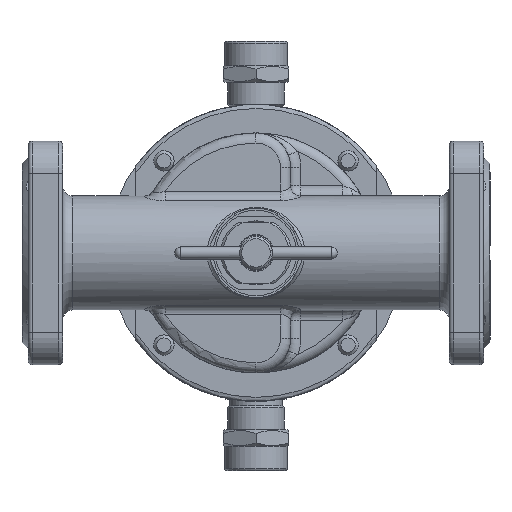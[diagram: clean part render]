
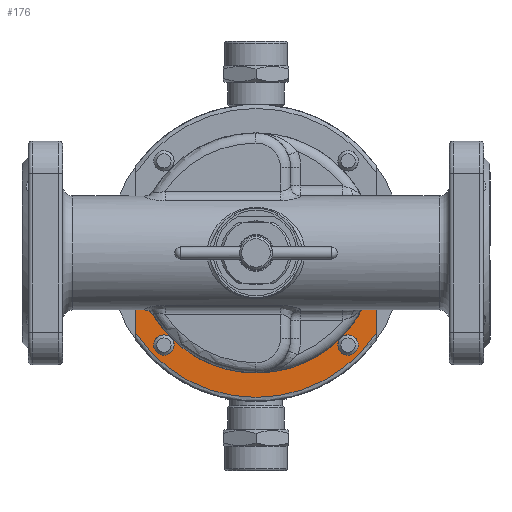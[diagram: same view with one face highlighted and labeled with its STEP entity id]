
A CAD part, front view. The second image highlights one B-rep face of the part: STEP entity #176.
In plain terms, the highlighted planar face has unit normal (0, -1, 0).
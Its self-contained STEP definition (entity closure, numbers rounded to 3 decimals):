
#176=ADVANCED_FACE('',(#4627),#4629,.F.);
#4627=FACE_OUTER_BOUND('',#4628,.T.);
#4628=EDGE_LOOP('',(#21762,#21763,#21764,#21765,#21766,#21767,#21768,#21769,#21770,
#21771));
#4629=PLANE('',#4630);
#4630=AXIS2_PLACEMENT_3D('',#4631,#4632,#4633);
#4631=CARTESIAN_POINT('',(0.,39.5,0.));
#4632=DIRECTION('',(0.,1.,0.));
#4633=DIRECTION('',(-1.,0.,0.));
#21762=ORIENTED_EDGE('',*,*,#33159,.F.);
#21763=ORIENTED_EDGE('',*,*,#33160,.F.);
#21764=ORIENTED_EDGE('',*,*,#33082,.F.);
#21765=ORIENTED_EDGE('',*,*,#33100,.F.);
#21766=ORIENTED_EDGE('',*,*,#33161,.F.);
#21767=ORIENTED_EDGE('',*,*,#33093,.F.);
#21768=ORIENTED_EDGE('',*,*,#33084,.F.);
#21769=ORIENTED_EDGE('',*,*,#33162,.F.);
#21770=ORIENTED_EDGE('',*,*,#33163,.F.);
#21771=ORIENTED_EDGE('',*,*,#33083,.F.);
#33082=EDGE_CURVE('',#37993,#38123,#38124,.T.);
#33083=EDGE_CURVE('',#38123,#38125,#38126,.T.);
#33084=EDGE_CURVE('',#38125,#37987,#38127,.T.);
#33093=EDGE_CURVE('',#37987,#38142,#38143,.T.);
#33100=EDGE_CURVE('',#38152,#37993,#38154,.T.);
#33159=EDGE_CURVE('',#38247,#38123,#38248,.T.);
#33160=EDGE_CURVE('',#38123,#38247,#38249,.T.);
#33161=EDGE_CURVE('',#38142,#38152,#38250,.T.);
#33162=EDGE_CURVE('',#38251,#38125,#38252,.T.);
#33163=EDGE_CURVE('',#38125,#38251,#38253,.T.);
#37987=VERTEX_POINT('',#46244);
#37993=VERTEX_POINT('',#46258);
#38123=VERTEX_POINT('',#46631);
#38124=CIRCLE('',#46632,59.);
#38125=VERTEX_POINT('',#46636);
#38126=CIRCLE('',#46637,59.);
#38127=CIRCLE('',#46641,59.);
#38142=VERTEX_POINT('',#46776);
#38143=LINE('',#46777,#46778);
#38152=VERTEX_POINT('',#46903);
#38154=LINE('',#46959,#46960);
#38247=VERTEX_POINT('',#47385);
#38248=CIRCLE('',#47386,5.);
#38249=CIRCLE('',#47390,5.);
#38250=CIRCLE('',#47394,71.);
#38251=VERTEX_POINT('',#47398);
#38252=CIRCLE('',#47399,5.);
#38253=CIRCLE('',#47403,5.);
#46244=CARTESIAN_POINT('',(59.,39.5,0.));
#46258=CARTESIAN_POINT('',(-59.,39.5,0.));
#46631=CARTESIAN_POINT('',(-41.719,39.5,-41.719));
#46632=AXIS2_PLACEMENT_3D('',#46633,#46634,#46635);
#46633=CARTESIAN_POINT('',(0.,39.5,0.));
#46634=DIRECTION('',(0.,-1.,0.));
#46635=DIRECTION('',(-1.,0.,0.));
#46636=CARTESIAN_POINT('',(41.719,39.5,-41.719));
#46637=AXIS2_PLACEMENT_3D('',#46638,#46639,#46640);
#46638=CARTESIAN_POINT('',(0.,39.5,0.));
#46639=DIRECTION('',(0.,-1.,0.));
#46640=DIRECTION('',(-0.707,0.,-0.707));
#46641=AXIS2_PLACEMENT_3D('',#46642,#46643,#46644);
#46642=CARTESIAN_POINT('',(0.,39.5,0.));
#46643=DIRECTION('',(0.,-1.,0.));
#46644=DIRECTION('',(0.707,0.,-0.707));
#46776=CARTESIAN_POINT('',(59.,39.5,-39.497));
#46777=CARTESIAN_POINT('',(59.,39.5,0.));
#46778=VECTOR('',#46779,1.);
#46779=DIRECTION('',(0.,0.,-1.));
#46903=CARTESIAN_POINT('',(-59.,39.5,-39.497));
#46959=CARTESIAN_POINT('',(-59.,39.5,-39.497));
#46960=VECTOR('',#46961,1.);
#46961=DIRECTION('',(0.,0.,1.));
#47385=CARTESIAN_POINT('',(-45.255,39.5,-50.255));
#47386=AXIS2_PLACEMENT_3D('',#47387,#47388,#47389);
#47387=CARTESIAN_POINT('',(-45.255,39.5,-45.255));
#47388=DIRECTION('',(0.,-1.,0.));
#47389=DIRECTION('',(0.,0.,-1.));
#47390=AXIS2_PLACEMENT_3D('',#47391,#47392,#47393);
#47391=CARTESIAN_POINT('',(-45.255,39.5,-45.255));
#47392=DIRECTION('',(0.,-1.,0.));
#47393=DIRECTION('',(0.707,0.,0.707));
#47394=AXIS2_PLACEMENT_3D('',#47395,#47396,#47397);
#47395=CARTESIAN_POINT('',(0.,39.5,0.));
#47396=DIRECTION('',(0.,1.,0.));
#47397=DIRECTION('',(0.831,0.,-0.556));
#47398=CARTESIAN_POINT('',(50.255,39.5,-45.255));
#47399=AXIS2_PLACEMENT_3D('',#47400,#47401,#47402);
#47400=CARTESIAN_POINT('',(45.255,39.5,-45.255));
#47401=DIRECTION('',(0.,-1.,0.));
#47402=DIRECTION('',(1.,0.,0.));
#47403=AXIS2_PLACEMENT_3D('',#47404,#47405,#47406);
#47404=CARTESIAN_POINT('',(45.255,39.5,-45.255));
#47405=DIRECTION('',(0.,-1.,0.));
#47406=DIRECTION('',(-0.707,0.,0.707));
